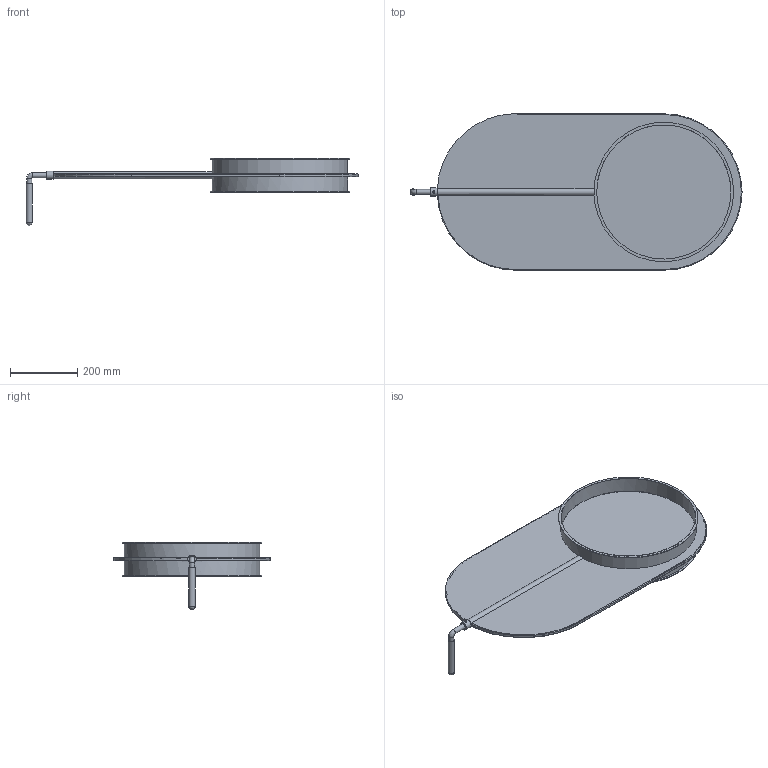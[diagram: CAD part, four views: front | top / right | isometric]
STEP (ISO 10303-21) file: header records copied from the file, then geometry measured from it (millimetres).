
FILE_DESCRIPTION((''),'2;1');
FILE_NAME('U:\Wolfgang\Marcel-3D\fertig\Kapitel 9\4021077.stp','2011-10-11T13:04:50',('iwienholt'),(''),'Autodesk Inventor 2010','Autodesk Inventor 2010','');
FILE_SCHEMA(('AUTOMOTIVE_DESIGN { 1 0 10303 214 1 1 1 1 }'));
Length unit declared in the file: millimetre
Products named in the file (3): 4021077; 4021077-1; Hebel-Ronde DN400
Assembly tree (2 placements, depth 2):
  4021077
    4021077-1
    Hebel-Ronde DN400
Bounding box: 984.83 x 464 x 199.43 mm (x, y, z)
Volume: 1941678.5 mm3; surface area: 1638056.8 mm2
Topology: 2 solids, 2 shells, 49 faces, 125 edges, 80 vertices
Faces by surface type: cylinder 24, plane 19, torus 5, sphere 1
Full cylindrical faces by diameter (mm): 6.647 x1, 15 x2, 15.5 x1, 19 x1, 21 x1, 25 x1, 398 x2, 402 x2, 414 x2
Entity records: 1642 total; most frequent: CARTESIAN_POINT 485, DIRECTION 234, ORIENTED_EDGE 196, AXIS2_PLACEMENT_3D 100, EDGE_CURVE 98, EDGE_LOOP 72, VERTEX_POINT 70, FACE_OUTER_BOUND 49
